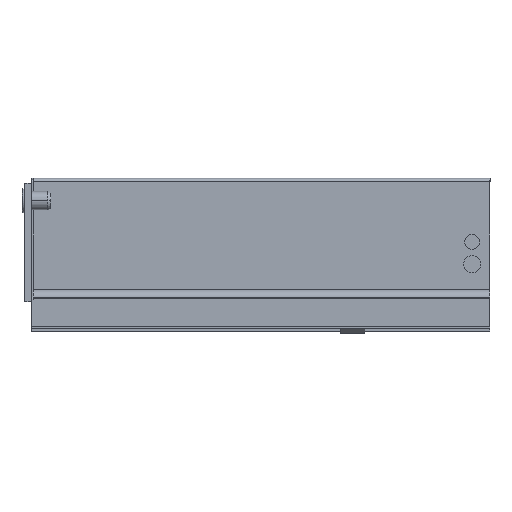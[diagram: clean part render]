
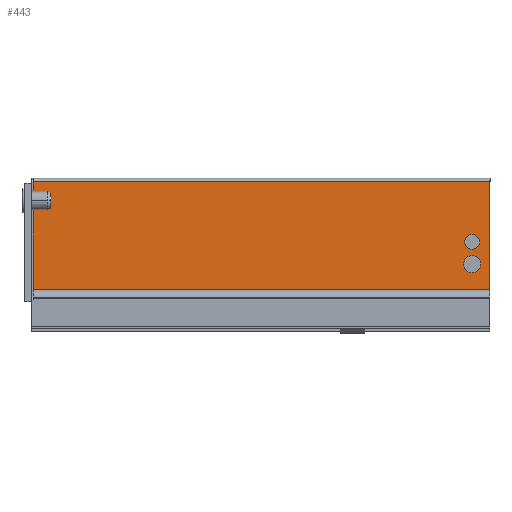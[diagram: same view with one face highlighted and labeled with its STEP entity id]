
A CAD part, left-side view. The second image highlights one B-rep face of the part: STEP entity #443.
In plain terms, the highlighted planar face has unit normal (-1, 0, 0).
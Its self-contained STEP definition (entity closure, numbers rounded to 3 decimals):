
#443 = ADVANCED_FACE ( 'NONE', ( #2207, #2404, #2223 ), #917, .T. ) ;
#555 = EDGE_CURVE ( 'NONE', #811, #711, #2137, .T. ) ;
#557 = EDGE_CURVE ( 'NONE', #823, #821, #2132, .T. ) ;
#562 = EDGE_CURVE ( 'NONE', #802, #711, #2124, .T. ) ;
#563 = EDGE_CURVE ( 'NONE', #745, #802, #2122, .T. ) ;
#564 = EDGE_CURVE ( 'NONE', #811, #745, #2120, .T. ) ;
#600 = EDGE_CURVE ( 'NONE', #822, #793, #2062, .T. ) ;
#711 = VERTEX_POINT ( 'NONE', #1381 ) ;
#745 = VERTEX_POINT ( 'NONE', #1409 ) ;
#793 = VERTEX_POINT ( 'NONE', #1447 ) ;
#802 = VERTEX_POINT ( 'NONE', #1456 ) ;
#811 = VERTEX_POINT ( 'NONE', #1465 ) ;
#821 = VERTEX_POINT ( 'NONE', #1475 ) ;
#822 = VERTEX_POINT ( 'NONE', #1476 ) ;
#823 = VERTEX_POINT ( 'NONE', #1477 ) ;
#917 = PLANE ( 'NONE',  #2722 ) ;
#918 = CARTESIAN_POINT ( 'NONE',  ( -21.5, 267., 68. ) ) ;
#919 = DIRECTION ( 'NONE',  ( -1., 0., 0. ) ) ;
#920 = DIRECTION ( 'NONE',  ( 0., 0., -1. ) ) ;
#1213 = CARTESIAN_POINT ( 'NONE',  ( -21.5, 267., 5.395 ) ) ;
#1214 = DIRECTION ( 'NONE',  ( 0., -1., 0. ) ) ;
#1218 = CARTESIAN_POINT ( 'NONE',  ( -21.5, 10.4, 33. ) ) ;
#1219 = DIRECTION ( 'NONE',  ( -1., 0., 0. ) ) ;
#1220 = DIRECTION ( 'NONE',  ( 0., 0., -1. ) ) ;
#1229 = CARTESIAN_POINT ( 'NONE',  ( -21.5, 0., 68. ) ) ;
#1230 = DIRECTION ( 'NONE',  ( 0., 0., -1. ) ) ;
#1231 = CARTESIAN_POINT ( 'NONE',  ( -21.5, 267., 68. ) ) ;
#1232 = DIRECTION ( 'NONE',  ( 0., -1., 0. ) ) ;
#1233 = CARTESIAN_POINT ( 'NONE',  ( -21.5, 266., 5.395 ) ) ;
#1234 = DIRECTION ( 'NONE',  ( 0., 0., 1. ) ) ;
#1320 = CARTESIAN_POINT ( 'NONE',  ( -21.5, 10.4, 20. ) ) ;
#1321 = DIRECTION ( 'NONE',  ( -1., 0., 0. ) ) ;
#1322 = DIRECTION ( 'NONE',  ( 0., 0., -1. ) ) ;
#1381 = CARTESIAN_POINT ( 'NONE',  ( -21.5, 0., 5.395 ) ) ;
#1409 = CARTESIAN_POINT ( 'NONE',  ( -21.5, 266., 68. ) ) ;
#1447 = CARTESIAN_POINT ( 'NONE',  ( -21.5, 10.4, 15.1 ) ) ;
#1456 = CARTESIAN_POINT ( 'NONE',  ( -21.5, 0., 68. ) ) ;
#1465 = CARTESIAN_POINT ( 'NONE',  ( -21.5, 266., 5.395 ) ) ;
#1475 = CARTESIAN_POINT ( 'NONE',  ( -21.5, 10.4, 28.65 ) ) ;
#1476 = CARTESIAN_POINT ( 'NONE',  ( -21.5, 10.4, 24.9 ) ) ;
#1477 = CARTESIAN_POINT ( 'NONE',  ( -21.5, 10.4, 37.35 ) ) ;
#1512 = CARTESIAN_POINT ( 'NONE',  ( -21.5, 10.4, 20. ) ) ;
#1513 = DIRECTION ( 'NONE',  ( -1., 0., 0. ) ) ;
#1514 = DIRECTION ( 'NONE',  ( 0., 0., -1. ) ) ;
#1559 = CARTESIAN_POINT ( 'NONE',  ( -21.5, 10.4, 33. ) ) ;
#1560 = DIRECTION ( 'NONE',  ( -1., 0., 0. ) ) ;
#1561 = DIRECTION ( 'NONE',  ( 0., 0., -1. ) ) ;
#2006 = CIRCLE ( 'NONE', #2806, 4.35 ) ;
#2034 = CIRCLE ( 'NONE', #2797, 4.9 ) ;
#2062 = CIRCLE ( 'NONE', #2793, 4.9 ) ;
#2119 = VECTOR ( 'NONE', #1234, 1000. ) ;
#2120 = LINE ( 'NONE', #1233, #2119 ) ;
#2121 = VECTOR ( 'NONE', #1232, 1000. ) ;
#2122 = LINE ( 'NONE', #1231, #2121 ) ;
#2123 = VECTOR ( 'NONE', #1230, 1000. ) ;
#2124 = LINE ( 'NONE', #1229, #2123 ) ;
#2132 = CIRCLE ( 'NONE', #2781, 4.35 ) ;
#2135 = VECTOR ( 'NONE', #1214, 1000. ) ;
#2137 = LINE ( 'NONE', #1213, #2135 ) ;
#2207 = FACE_OUTER_BOUND ( 'NONE', #2467, .T. ) ;
#2223 = FACE_BOUND ( 'NONE', #2369, .T. ) ;
#2255 = ORIENTED_EDGE ( 'NONE', *, *, #557, .F. ) ;
#2369 = EDGE_LOOP ( 'NONE', ( #2438, #2520 ) ) ;
#2398 = ORIENTED_EDGE ( 'NONE', *, *, #562, .F. ) ;
#2404 = FACE_BOUND ( 'NONE', #2419, .T. ) ;
#2407 = ORIENTED_EDGE ( 'NONE', *, *, #563, .F. ) ;
#2416 = ORIENTED_EDGE ( 'NONE', *, *, #2581, .F. ) ;
#2419 = EDGE_LOOP ( 'NONE', ( #2416, #2255 ) ) ;
#2438 = ORIENTED_EDGE ( 'NONE', *, *, #2562, .F. ) ;
#2467 = EDGE_LOOP ( 'NONE', ( #2551, #2398, #2407, #2549 ) ) ;
#2520 = ORIENTED_EDGE ( 'NONE', *, *, #600, .F. ) ;
#2549 = ORIENTED_EDGE ( 'NONE', *, *, #564, .F. ) ;
#2551 = ORIENTED_EDGE ( 'NONE', *, *, #555, .T. ) ;
#2562 = EDGE_CURVE ( 'NONE', #793, #822, #2034, .T. ) ;
#2581 = EDGE_CURVE ( 'NONE', #821, #823, #2006, .T. ) ;
#2722 = AXIS2_PLACEMENT_3D ( 'NONE', #918, #919, #920 ) ;
#2781 = AXIS2_PLACEMENT_3D ( 'NONE', #1218, #1219, #1220 ) ;
#2793 = AXIS2_PLACEMENT_3D ( 'NONE', #1320, #1321, #1322 ) ;
#2797 = AXIS2_PLACEMENT_3D ( 'NONE', #1512, #1513, #1514 ) ;
#2806 = AXIS2_PLACEMENT_3D ( 'NONE', #1559, #1560, #1561 ) ;
